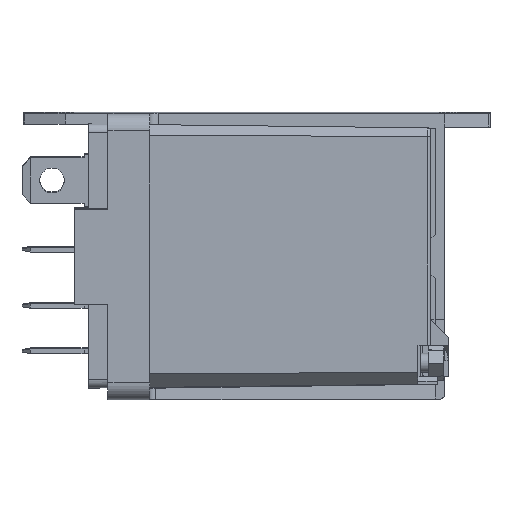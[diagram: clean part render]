
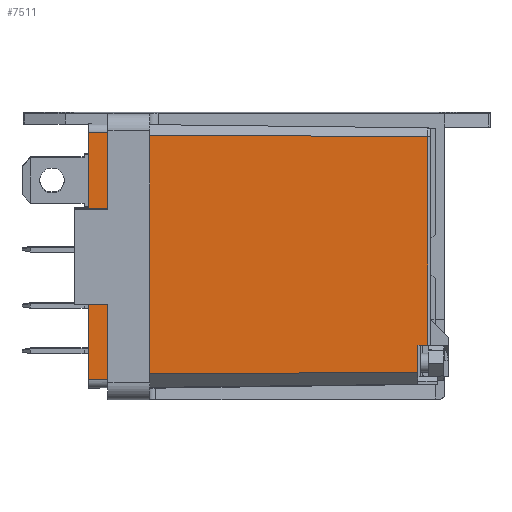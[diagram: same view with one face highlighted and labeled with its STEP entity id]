
A CAD part, top view. The second image highlights one B-rep face of the part: STEP entity #7511.
In plain terms, the highlighted planar face has unit normal (0.011, -0.009, 1).
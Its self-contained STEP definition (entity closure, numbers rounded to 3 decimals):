
#598=ORIENTED_EDGE('',*,*,#2545,.T.);
#599=ORIENTED_EDGE('',*,*,#2605,.F.);
#600=ORIENTED_EDGE('',*,*,#2606,.F.);
#601=ORIENTED_EDGE('',*,*,#2603,.T.);
#602=ORIENTED_EDGE('',*,*,#2530,.T.);
#603=ORIENTED_EDGE('',*,*,#2536,.T.);
#604=ORIENTED_EDGE('',*,*,#2538,.T.);
#605=ORIENTED_EDGE('',*,*,#2540,.T.);
#606=ORIENTED_EDGE('',*,*,#2544,.T.);
#607=ORIENTED_EDGE('',*,*,#2553,.T.);
#2530=EDGE_CURVE('',#3637,#3638,#4430,.T.);
#2536=EDGE_CURVE('',#3638,#3641,#4435,.T.);
#2538=EDGE_CURVE('',#3641,#3642,#4437,.T.);
#2540=EDGE_CURVE('',#3642,#3643,#4438,.T.);
#2544=EDGE_CURVE('',#3643,#3588,#4442,.T.);
#2545=EDGE_CURVE('',#3645,#3646,#4443,.T.);
#2553=EDGE_CURVE('',#3588,#3645,#4450,.T.);
#2603=EDGE_CURVE('',#3688,#3637,#4497,.T.);
#2605=EDGE_CURVE('',#3689,#3646,#4498,.T.);
#2606=EDGE_CURVE('',#3688,#3689,#4499,.T.);
#3588=VERTEX_POINT('',#12029);
#3637=VERTEX_POINT('',#12194);
#3638=VERTEX_POINT('',#12195);
#3641=VERTEX_POINT('',#12204);
#3642=VERTEX_POINT('',#12208);
#3643=VERTEX_POINT('',#12212);
#3645=VERTEX_POINT('',#12222);
#3646=VERTEX_POINT('',#12223);
#3688=VERTEX_POINT('',#12444);
#3689=VERTEX_POINT('',#12448);
#4430=LINE('',#12193,#5431);
#4435=LINE('',#12205,#5436);
#4437=LINE('',#12209,#5438);
#4438=LINE('',#12213,#5439);
#4442=LINE('',#12219,#5443);
#4443=LINE('',#12221,#5444);
#4450=LINE('',#12238,#5451);
#4497=LINE('',#12443,#5498);
#4498=LINE('',#12447,#5499);
#4499=LINE('',#12449,#5500);
#5431=VECTOR('',#10040,1000.);
#5436=VECTOR('',#10049,1000.);
#5438=VECTOR('',#10053,1000.);
#5439=VECTOR('',#10058,1000.);
#5443=VECTOR('',#10064,1000.);
#5444=VECTOR('',#10067,1000.);
#5451=VECTOR('',#10082,1000.);
#5498=VECTOR('',#10165,1000.);
#5499=VECTOR('',#10170,1000.);
#5500=VECTOR('',#10171,1000.);
#6361=EDGE_LOOP('',(#598,#599,#600,#601,#602,#603,#604,#605,#606,#607));
#6788=FACE_BOUND('',#6361,.T.);
#7187=PLANE('',#9355);
#7511=ADVANCED_FACE('LABEL',(#6788),#7187,.T.);
#9355=AXIS2_PLACEMENT_3D('',#12446,#10168,#10169);
#10040=DIRECTION('',(0.,1.,0.009));
#10049=DIRECTION('',(1.,0.002,-0.012));
#10053=DIRECTION('',(0.,1.,0.009));
#10058=DIRECTION('',(1.,0.,-0.012));
#10064=DIRECTION('',(0.,1.,0.009));
#10067=DIRECTION('',(0.,1.,0.009));
#10082=DIRECTION('',(-1.,0.005,0.012));
#10165=DIRECTION('',(1.,0.012,-0.011));
#10168=DIRECTION('',(0.012,-0.009,1.));
#10169=DIRECTION('',(0.,1.,0.009));
#10170=DIRECTION('',(1.,-0.011,-0.012));
#10171=DIRECTION('',(0.,1.,0.009));
#12029=CARTESIAN_POINT('',(12.93,-6.672,0.102));
#12193=CARTESIAN_POINT('',(-16.674,-32.079,0.222));
#12194=CARTESIAN_POINT('',(-16.674,-32.079,0.222));
#12195=CARTESIAN_POINT('',(-16.674,-31.489,0.227));
#12204=CARTESIAN_POINT('',(11.926,-31.428,-0.102));
#12205=CARTESIAN_POINT('',(-16.674,-31.489,0.227));
#12208=CARTESIAN_POINT('',(11.926,-28.55,-0.077));
#12209=CARTESIAN_POINT('',(11.926,-31.428,-0.102));
#12212=CARTESIAN_POINT('',(12.93,-28.55,-0.089));
#12213=CARTESIAN_POINT('',(11.926,-28.55,-0.077));
#12219=CARTESIAN_POINT('',(12.93,-28.55,-0.089));
#12221=CARTESIAN_POINT('',(-16.674,-6.534,0.445));
#12222=CARTESIAN_POINT('',(-16.674,-6.534,0.445));
#12223=CARTESIAN_POINT('',(-16.674,-6.327,0.446));
#12238=CARTESIAN_POINT('',(12.93,-6.672,0.102));
#12443=CARTESIAN_POINT('',(-22.574,-32.147,0.289));
#12444=CARTESIAN_POINT('',(-22.574,-32.147,0.289));
#12446=CARTESIAN_POINT('',(13.235,-32.152,-0.124));
#12447=CARTESIAN_POINT('',(-22.574,-6.26,0.515));
#12448=CARTESIAN_POINT('',(-22.574,-6.26,0.515));
#12449=CARTESIAN_POINT('',(-22.574,-32.147,0.289));
